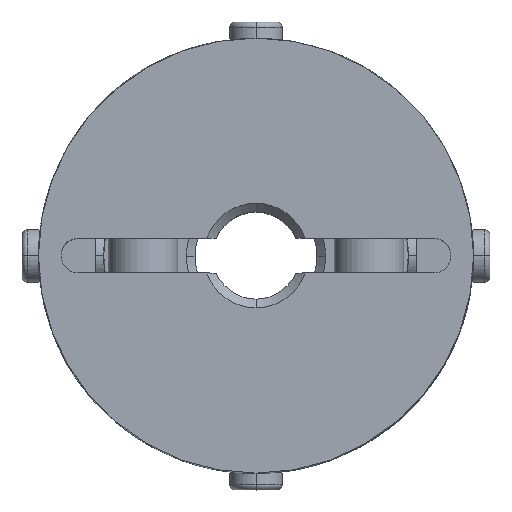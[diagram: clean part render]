
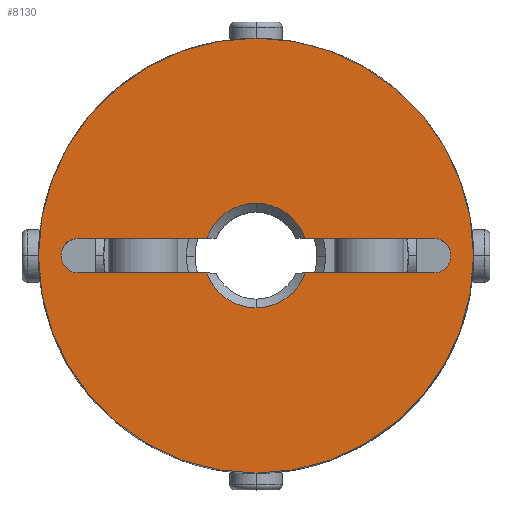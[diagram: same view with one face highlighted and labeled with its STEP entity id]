
A CAD part, top view. The second image highlights one B-rep face of the part: STEP entity #8130.
In plain terms, the highlighted planar face has unit normal (0, 0, 1).
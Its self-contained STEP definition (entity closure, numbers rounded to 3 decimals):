
#885=CARTESIAN_POINT('',(0.,12.5,13.5));
#886=VERTEX_POINT('',#885);
#893=CARTESIAN_POINT('',(0.,-12.5,13.5));
#894=VERTEX_POINT('',#893);
#895=CARTESIAN_POINT('',(0.,0.0,13.5));
#896=DIRECTION('',(0.0,0.0,-1.0));
#897=DIRECTION('',(0.0,-1.0,0.0));
#898=AXIS2_PLACEMENT_3D('',#895,#896,#897);
#899=CIRCLE('',#898,12.5);
#900=EDGE_CURVE('',#886,#894,#899,.T.);
#1153=CARTESIAN_POINT('',(10.907,0.707,13.5));
#1154=VERTEX_POINT('',#1153);
#1170=CARTESIAN_POINT('',(10.2,-1.,13.5));
#1171=VERTEX_POINT('',#1170);
#1178=CARTESIAN_POINT('',(10.2,0.,13.5));
#1179=DIRECTION('',(0.0,0.0,1.0));
#1180=DIRECTION('',(0.707,-0.707,0.0));
#1181=AXIS2_PLACEMENT_3D('',#1178,#1179,#1180);
#1182=CIRCLE('',#1181,1.0);
#1183=EDGE_CURVE('',#1171,#1154,#1182,.T.);
#1195=CARTESIAN_POINT('',(-10.907,-0.707,13.5));
#1196=VERTEX_POINT('',#1195);
#1212=CARTESIAN_POINT('',(-10.2,1.,13.5));
#1213=VERTEX_POINT('',#1212);
#1220=CARTESIAN_POINT('',(-10.2,0.,13.5));
#1221=DIRECTION('',(0.0,0.0,1.0));
#1222=DIRECTION('',(-0.707,0.707,0.0));
#1223=AXIS2_PLACEMENT_3D('',#1220,#1221,#1222);
#1224=CIRCLE('',#1223,1.0);
#1225=EDGE_CURVE('',#1213,#1196,#1224,.T.);
#1235=CARTESIAN_POINT('',(0.,3.0,13.5));
#1236=VERTEX_POINT('',#1235);
#1244=CARTESIAN_POINT('',(2.828,1.,13.5));
#1245=VERTEX_POINT('',#1244);
#1259=CARTESIAN_POINT('',(0.,0.0,13.5));
#1260=DIRECTION('',(0.0,0.0,1.0));
#1261=DIRECTION('',(0.0,1.0,0.0));
#1262=AXIS2_PLACEMENT_3D('',#1259,#1260,#1261);
#1263=CIRCLE('',#1262,3.0);
#1264=EDGE_CURVE('',#1245,#1236,#1263,.T.);
#1276=CARTESIAN_POINT('',(0.,-3.0,13.5));
#1277=VERTEX_POINT('',#1276);
#1293=CARTESIAN_POINT('',(-2.828,-1.,13.5));
#1294=VERTEX_POINT('',#1293);
#1308=CARTESIAN_POINT('',(0.,0.0,13.5));
#1309=DIRECTION('',(0.0,0.0,1.0));
#1310=DIRECTION('',(0.0,-1.0,0.0));
#1311=AXIS2_PLACEMENT_3D('',#1308,#1309,#1310);
#1312=CIRCLE('',#1311,3.0);
#1313=EDGE_CURVE('',#1294,#1277,#1312,.T.);
#7922=CARTESIAN_POINT('',(-10.2,-1.,13.5));
#7923=VERTEX_POINT('',#7922);
#7930=CARTESIAN_POINT('',(-2.828,-1.,13.5));
#7931=DIRECTION('',(-1.0,0.0,0.0));
#7932=VECTOR('',#7931,7.372);
#7933=LINE('',#7930,#7932);
#7934=EDGE_CURVE('',#1294,#7923,#7933,.T.);
#7991=CARTESIAN_POINT('',(-2.828,1.,13.5));
#7992=VERTEX_POINT('',#7991);
#8006=CARTESIAN_POINT('',(-10.2,1.,13.5));
#8007=DIRECTION('',(1.0,0.0,0.0));
#8008=VECTOR('',#8007,7.372);
#8009=LINE('',#8006,#8008);
#8010=EDGE_CURVE('',#1213,#7992,#8009,.T.);
#8027=CARTESIAN_POINT('',(2.828,-1.,13.5));
#8028=VERTEX_POINT('',#8027);
#8029=CARTESIAN_POINT('',(0.,0.0,13.5));
#8030=DIRECTION('',(0.0,0.0,1.0));
#8031=DIRECTION('',(0.0,-1.0,0.0));
#8032=AXIS2_PLACEMENT_3D('',#8029,#8030,#8031);
#8033=CIRCLE('',#8032,3.0);
#8034=EDGE_CURVE('',#1277,#8028,#8033,.T.);
#8061=CARTESIAN_POINT('',(10.2,-1.,13.5));
#8062=DIRECTION('',(-1.0,0.0,0.0));
#8063=VECTOR('',#8062,7.372);
#8064=LINE('',#8061,#8063);
#8065=EDGE_CURVE('',#1171,#8028,#8064,.T.);
#8076=CARTESIAN_POINT('',(0.,-1.136,13.5));
#8077=DIRECTION('',(0.0,0.0,1.0));
#8078=DIRECTION('',(0.0,-1.0,0.0));
#8079=AXIS2_PLACEMENT_3D('',#8076,#8077,#8078);
#8080=PLANE('',#8079);
#8081=CARTESIAN_POINT('',(0.,0.0,13.5));
#8082=DIRECTION('',(0.0,0.0,-1.0));
#8083=DIRECTION('',(0.0,-1.0,0.0));
#8084=AXIS2_PLACEMENT_3D('',#8081,#8082,#8083);
#8085=CIRCLE('',#8084,12.5);
#8086=EDGE_CURVE('',#894,#886,#8085,.T.);
#8087=ORIENTED_EDGE('',*,*,#8086,.F.);
#8088=ORIENTED_EDGE('',*,*,#900,.F.);
#8089=EDGE_LOOP('',(#8087,#8088));
#8090=FACE_OUTER_BOUND('',#8089,.T.);
#8091=ORIENTED_EDGE('',*,*,#1313,.F.);
#8092=ORIENTED_EDGE('',*,*,#7934,.T.);
#8093=CARTESIAN_POINT('',(-10.2,0.,13.5));
#8094=DIRECTION('',(0.0,0.0,1.0));
#8095=DIRECTION('',(-0.707,0.707,0.0));
#8096=AXIS2_PLACEMENT_3D('',#8093,#8094,#8095);
#8097=CIRCLE('',#8096,1.0);
#8098=EDGE_CURVE('',#1196,#7923,#8097,.T.);
#8099=ORIENTED_EDGE('',*,*,#8098,.F.);
#8100=ORIENTED_EDGE('',*,*,#1225,.F.);
#8101=ORIENTED_EDGE('',*,*,#8010,.T.);
#8102=CARTESIAN_POINT('',(0.,0.0,13.5));
#8103=DIRECTION('',(0.0,0.0,1.0));
#8104=DIRECTION('',(0.0,1.0,0.0));
#8105=AXIS2_PLACEMENT_3D('',#8102,#8103,#8104);
#8106=CIRCLE('',#8105,3.0);
#8107=EDGE_CURVE('',#1236,#7992,#8106,.T.);
#8108=ORIENTED_EDGE('',*,*,#8107,.F.);
#8109=ORIENTED_EDGE('',*,*,#1264,.F.);
#8110=CARTESIAN_POINT('',(10.2,1.,13.5));
#8111=VERTEX_POINT('',#8110);
#8112=CARTESIAN_POINT('',(2.828,1.,13.5));
#8113=DIRECTION('',(1.0,0.0,0.0));
#8114=VECTOR('',#8113,7.372);
#8115=LINE('',#8112,#8114);
#8116=EDGE_CURVE('',#1245,#8111,#8115,.T.);
#8117=ORIENTED_EDGE('',*,*,#8116,.T.);
#8118=CARTESIAN_POINT('',(10.2,0.,13.5));
#8119=DIRECTION('',(0.0,0.0,1.0));
#8120=DIRECTION('',(0.707,-0.707,0.0));
#8121=AXIS2_PLACEMENT_3D('',#8118,#8119,#8120);
#8122=CIRCLE('',#8121,1.0);
#8123=EDGE_CURVE('',#1154,#8111,#8122,.T.);
#8124=ORIENTED_EDGE('',*,*,#8123,.F.);
#8125=ORIENTED_EDGE('',*,*,#1183,.F.);
#8126=ORIENTED_EDGE('',*,*,#8065,.T.);
#8127=ORIENTED_EDGE('',*,*,#8034,.F.);
#8128=EDGE_LOOP('',(#8091,#8092,#8099,#8100,#8101,#8108,#8109,#8117,#8124,#8125,#8126,#8127));
#8129=FACE_BOUND('',#8128,.T.);
#8130=ADVANCED_FACE('',(#8090,#8129),#8080,.T.);
